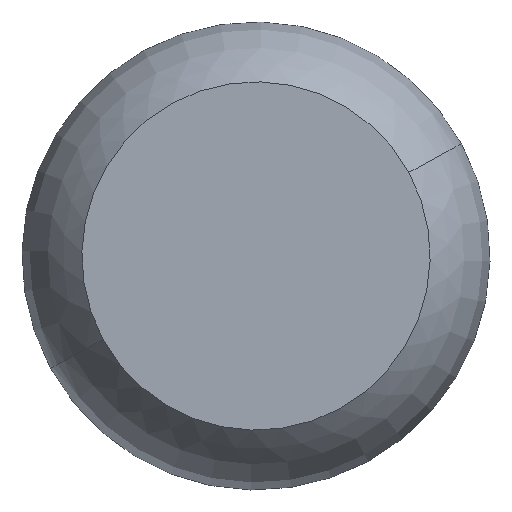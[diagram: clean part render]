
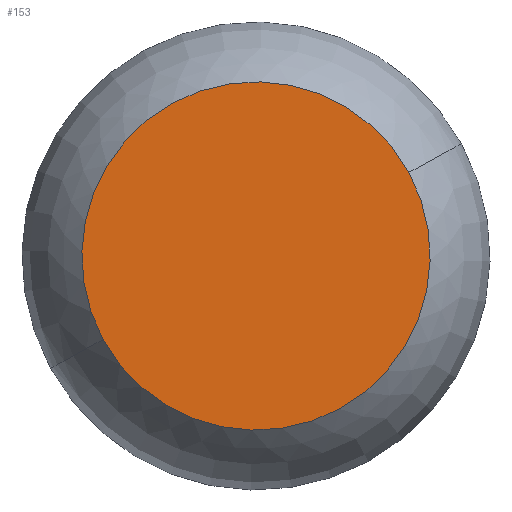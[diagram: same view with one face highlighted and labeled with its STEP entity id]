
A CAD part, front view. The second image highlights one B-rep face of the part: STEP entity #153.
In plain terms, the highlighted planar face has unit normal (0, -1, 0).
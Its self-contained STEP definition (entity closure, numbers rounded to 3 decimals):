
#66=CARTESIAN_POINT('Axis2P3D Location',(0.,0.,0.)) ;
#70=CARTESIAN_POINT('Vertex',(79.86,0.,43.628)) ;
#72=CARTESIAN_POINT('Vertex',(-79.86,0.,-43.628)) ;
#127=CARTESIAN_POINT('Axis2P3D Location',(0.,0.,0.)) ;
#144=CARTESIAN_POINT('Axis2P3D Location',(0.,0.,0.)) ;
#67=DIRECTION('Axis2P3D Direction',(0.,-1.,0.)) ;
#128=DIRECTION('Axis2P3D Direction',(0.,-1.,0.)) ;
#145=DIRECTION('Axis2P3D Direction',(0.,-1.,0.)) ;
#146=DIRECTION('Axis2P3D XDirection',(1.,0.,0.)) ;
#68=AXIS2_PLACEMENT_3D('Circle Axis2P3D',#66,#67,$) ;
#129=AXIS2_PLACEMENT_3D('Circle Axis2P3D',#127,#128,$) ;
#147=AXIS2_PLACEMENT_3D('Plane Axis2P3D',#144,#145,#146) ;
#150=ORIENTED_EDGE('',*,*,#74,.T.) ;
#151=ORIENTED_EDGE('',*,*,#131,.T.) ;
#153=ADVANCED_FACE('PartBody',(#152),#148,.T.) ;
#69=CIRCLE('generated circle',#68,91.) ;
#130=CIRCLE('generated circle',#129,91.) ;
#74=EDGE_CURVE('',#71,#73,#69,.T.) ;
#131=EDGE_CURVE('',#73,#71,#130,.T.) ;
#149=EDGE_LOOP('',(#150,#151)) ;
#152=FACE_OUTER_BOUND('',#149,.T.) ;
#148=PLANE('',#147) ;
#71=VERTEX_POINT('',#70) ;
#73=VERTEX_POINT('',#72) ;
